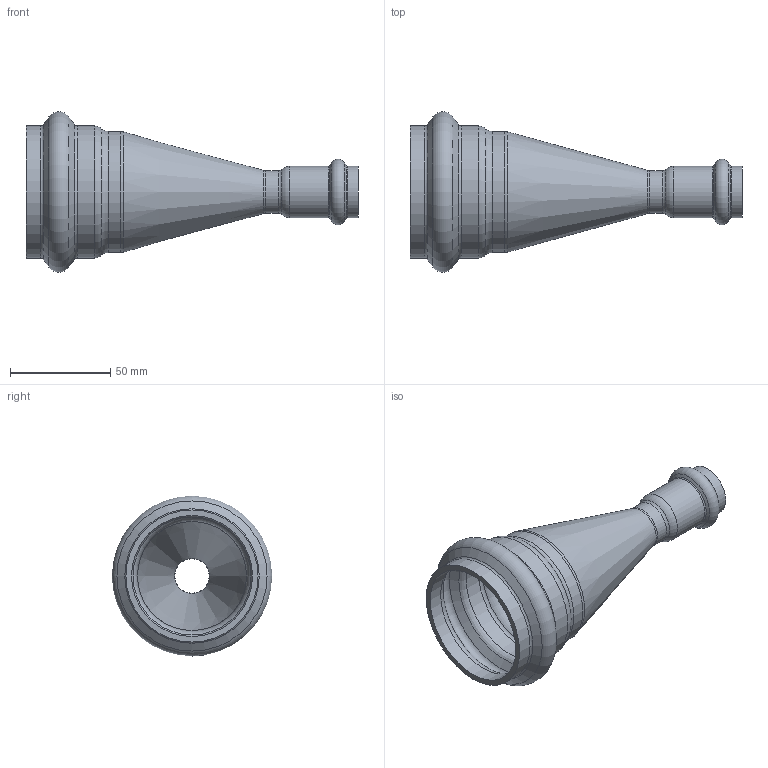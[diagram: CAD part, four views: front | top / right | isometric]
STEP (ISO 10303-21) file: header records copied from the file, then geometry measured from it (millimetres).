
FILE_DESCRIPTION(/* description */ ('VIC REDUCER CONC. STYLE P594 (P X P)','CAx-IF Rec.Pracs.---Representation and Presentation of Product Manufacturing Information (PMI)---4.0---2014-10-13'),/* implementation_level */ '2;1');
FILE_NAME(/* name */ 'C:\Users\Vjadhav\AppData\Roaming\Autodesk\ApplicationPlugins\Back Up\Victaulic_SS-Vic-Press-TP 304_Reducer Concentric_Style P594 (VP)\Victaulic_SS-Vic-Press-TP 304_Reducer Concentric_Style P594 (VP)_02.0x0.50 (50x15).stp',/* time_stamp */ '2020-08-12T18:14:58+06:00',/* author */ ('cgray'),/* organization */ ('Victaulic'),/* preprocessor_version */ 'ST-DEVELOPER v17.2',/* originating_system */ 'Autodesk Inventor 2019',/* authorisation */ '');
FILE_SCHEMA (('AP242_MANAGED_MODEL_BASED_3D_ENGINEERING_MIM_LF { 1 0 10303 442 1 1 4 }'));
Length unit declared in the file: inch
Products named in the file (1): P594-02.0x0.5
Bounding box: 165.61 x 79.89 x 79.89 mm (x, y, z)
Volume: 60275 mm3; surface area: 48325.5 mm2
Topology: 1 solids, 1 shells, 48 faces, 182 edges, 136 vertices
Faces by surface type: torus 24, cylinder 12, cone 10, plane 2
Full cylindrical faces by diameter (mm): 17.12 x1, 21.336 x3, 25.552 x2, 54.788 x1, 60.325 x3, 65.862 x2
Entity records: 2282 total; most frequent: DIRECTION 466, CARTESIAN_POINT 384, ORIENTED_EDGE 364, AXIS2_PLACEMENT_3D 222, EDGE_CURVE 182, CIRCLE 160, VERTEX_POINT 136, EDGE_LOOP 50
